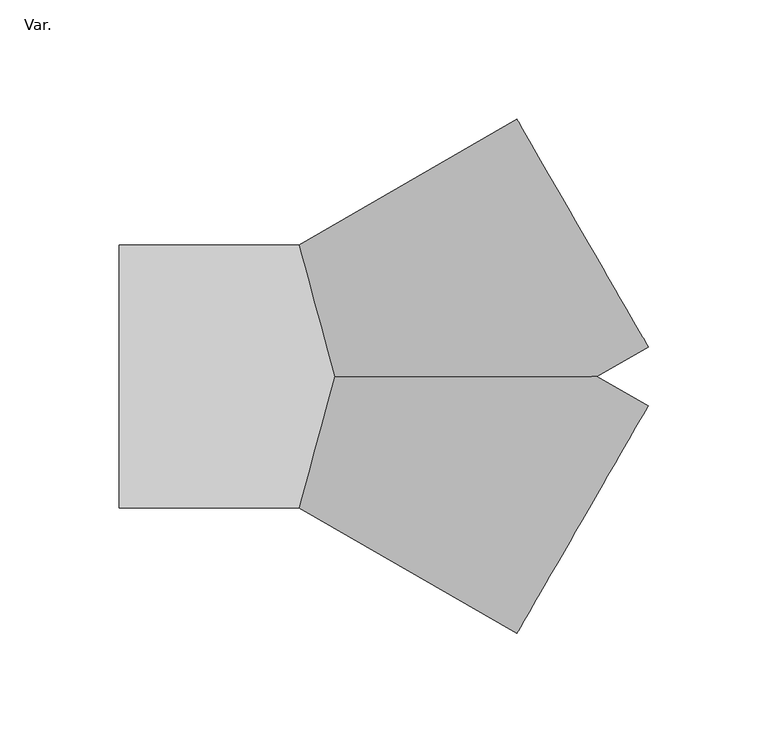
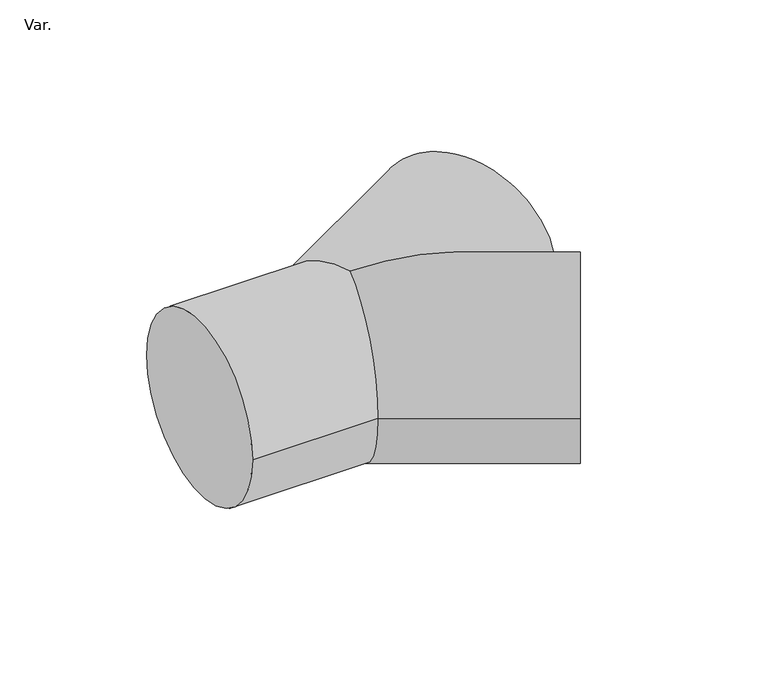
"""IFC4 building model written with IfcOpenShell, lengths in millimetres: pipe fitting geometry, PIF_HDPE y branch_Akatherm : Var.."""

import ifcopenshell
import ifcopenshell.guid

model = None  # the IFC model being written
_history = None  # IfcOwnerHistory: only IFC2X3 demands one
_inside = {}  # id of a spatial element -> (the spatial element, [elements in it])
_under = {}  # id of a project, library or spatial element -> (it, [spatial elements below it])
_declared = {}  # id of a project -> (the project, [libraries it declares])
_typed = {}  # id of a type object -> (the type object, [elements of that type])
_made_of = {}  # id of a material, layer set ... -> (it, [elements and type objects made of it])


def new_model(schema):
    """Start an empty IFC model of exactly this schema.

    Asked for "IFC4X3", IfcOpenShell would pick the latest addendum, in which some entities
    have other attributes; the version numbers below select the first issue.
    IFC2X3 requires an IfcOwnerHistory on every rooted entity: one is made here for all.
    """
    global model, _history
    if schema == "IFC4X3":
        model = ifcopenshell.file(schema_version=(4, 3, 0, 0))
    else:
        model = ifcopenshell.file(schema=schema)
    _inside.clear()
    _under.clear()
    _declared.clear()
    _typed.clear()
    _made_of.clear()
    _history = None
    if model.schema == "IFC2X3":
        org = make("IfcOrganization", Name="unknown")
        user = make(
            "IfcPersonAndOrganization",
            ThePerson=make("IfcPerson", FamilyName="unknown"),
            TheOrganization=org,
        )
        app = make(
            "IfcApplication",
            ApplicationDeveloper=org,
            Version="unknown",
            ApplicationFullName="unknown",
            ApplicationIdentifier="unknown",
        )
        _history = make(
            "IfcOwnerHistory",
            OwningUser=user,
            OwningApplication=app,
            ChangeAction="ADDED",
            CreationDate=0,
        )
    return model


def make(cls, **values):
    """One entity of the class cls with the attributes given. An attribute that is None is left unset."""
    return model.create_entity(
        cls, **{name: value for name, value in values.items() if value is not None}
    )


def rooted(cls, **values):
    """An entity with a GlobalId (a new one), such as an element, a storey or a relation."""
    return make(cls, GlobalId=ifcopenshell.guid.new(), OwnerHistory=_history, **values)


def si_unit(unit_type, name, prefix=None):
    """IfcSIUnit, for example si_unit("LENGTHUNIT", "METRE", prefix="MILLI")."""
    return make("IfcSIUnit", UnitType=unit_type, Prefix=prefix, Name=name)


def assignment(units):
    """IfcUnitAssignment: the units of a project."""
    return None if units is None else make("IfcUnitAssignment", Units=units)


def point(xyz):
    """IfcCartesianPoint."""
    return None if xyz is None else make("IfcCartesianPoint", Coordinates=xyz)


def direction(xyz):
    """IfcDirection."""
    return None if xyz is None else make("IfcDirection", DirectionRatios=xyz)


def frame(location, z_axis=None, x_axis=None):
    """IfcAxis2Placement3D, a coordinate frame: its origin and axes. An axis left out is left unset."""
    return make(
        "IfcAxis2Placement3D",
        Location=point(location),
        Axis=direction(z_axis),
        RefDirection=direction(x_axis),
    )


def origin():
    """The frame at (0, 0, 0) with its axes left unset."""
    return frame((0.0, 0.0, 0.0))


def place(relative_to, where):
    """IfcLocalPlacement: puts the frame where relative to a parent placement (None: the world)."""
    return make(
        "IfcLocalPlacement", PlacementRelTo=relative_to, RelativePlacement=where
    )


def context(
    kind, dimensions, precision=None, world=None, true_north=None, identifier=None
):
    """IfcGeometricRepresentationContext, for example the 3D "Model" context."""
    return make(
        "IfcGeometricRepresentationContext",
        ContextIdentifier=identifier,
        ContextType=kind,
        CoordinateSpaceDimension=dimensions,
        Precision=precision,
        WorldCoordinateSystem=world,
        TrueNorth=true_north,
    )


def project(units=None, contexts=None):
    """IfcProject with its units and contexts."""
    return rooted(
        "IfcProject",
        Name="project",
        RepresentationContexts=contexts,
        UnitsInContext=assignment(units),
    )


def spatial(cls, under=None, at=None, **own):
    """A site, building, storey or space (cls), placed at a placement, below another one or the project."""
    s = rooted(cls, ObjectPlacement=at, **own)
    if under is not None:
        _under.setdefault(under.id(), (under, []))[1].append(s)
    return s


def circle_curve(where, radius):
    """IfcCircle in the frame where."""
    return make("IfcCircle", Position=where, Radius=radius)


def ellipse_curve(where, semi_axis1, semi_axis2):
    """IfcEllipse in the frame where."""
    return make(
        "IfcEllipse", Position=where, SemiAxis1=semi_axis1, SemiAxis2=semi_axis2
    )


def shape(context_of_items, identifier, shape_type, items):
    """IfcShapeRepresentation: the items that make up one representation, for example the "Body"."""
    return make(
        "IfcShapeRepresentation",
        ContextOfItems=context_of_items,
        RepresentationIdentifier=identifier,
        RepresentationType=shape_type,
        Items=items,
    )


def source(mapping_origin, context_of_items, identifier, shape_type, items):
    """IfcRepresentationMap: a shape defined once, which mapped items show again and again."""
    return make(
        "IfcRepresentationMap",
        MappingOrigin=mapping_origin,
        MappedRepresentation=shape(context_of_items, identifier, shape_type, items),
    )


def transform(
    local_origin,
    x_axis=None,
    y_axis=None,
    z_axis=None,
    scale=None,
    scale2=None,
    scale3=None,
    uniform=True,
):
    """IfcCartesianTransformationOperator3D, or its non-uniform kind. x_axis, y_axis, z_axis: its Axis1, 2, 3."""
    if uniform:
        return make(
            "IfcCartesianTransformationOperator3D",
            Axis1=direction(x_axis),
            Axis2=direction(y_axis),
            LocalOrigin=point(local_origin),
            Scale=scale,
            Axis3=direction(z_axis),
        )
    return make(
        "IfcCartesianTransformationOperator3DnonUniform",
        Axis1=direction(x_axis),
        Axis2=direction(y_axis),
        LocalOrigin=point(local_origin),
        Scale=scale,
        Axis3=direction(z_axis),
        Scale2=scale2,
        Scale3=scale3,
    )


def mapped(mapping_source, mapping_target):
    """IfcMappedItem: shows the shape of a source again, moved by a transform."""
    return make(
        "IfcMappedItem", MappingSource=mapping_source, MappingTarget=mapping_target
    )


def made_of(thing, what):
    """Note that an element or type object is made of a material, layer set ...; save() writes the relation."""
    if what is not None:
        _made_of.setdefault(what.id(), (what, []))[1].append(thing)
    return thing


def element(
    cls,
    number,
    at=None,
    inside=None,
    cuts=None,
    type_object=None,
    material=None,
    context=None,
    identifier="Body",
    shape_type=None,
    held_by="IfcProductDefinitionShape",
    body=None,
    shapes=None,
    **own,
):
    """One element of the class cls, such as IfcWall. Its Tag is "e" and its number.

    at: its placement. inside: the storey or other place that contains it. cuts: it is an
    opening in that element (IfcRelVoidsElement). A single representation is given by context,
    identifier, shape_type and body (its items); several are given by shapes. held_by: the class
    of the entity that holds the representations. save() writes the other relations.
    """
    e = rooted(cls, Tag="e%d" % number, ObjectPlacement=at, **own)
    if body is not None:
        shapes = [shape(context, identifier, shape_type, body)]
    if shapes is not None:
        e.Representation = make(held_by, Representations=shapes)
    if inside is not None:
        _inside.setdefault(inside.id(), (inside, []))[1].append(e)
    if cuts is not None:
        rooted(
            "IfcRelVoidsElement", RelatingBuildingElement=cuts, RelatedOpeningElement=e
        )
    if type_object is not None:
        _typed.setdefault(type_object.id(), (type_object, []))[1].append(e)
    return made_of(e, material)


def aggregate(whole, parts):
    """IfcRelAggregates: a whole, such as a stair, and the parts it consists of."""
    return rooted("IfcRelAggregates", RelatingObject=whole, RelatedObjects=parts)


def save(model, path):
    """Write the relations noted so far, then the file.

    IfcRelAggregates (storeys below a building ...), IfcRelContainedInSpatialStructure (elements
    in a storey), IfcRelDefinesByType, IfcRelAssociatesMaterial and IfcRelDeclares: one each for
    every whole, place, type object, material and project.
    """
    for whole, parts in _under.values():
        aggregate(whole, parts)
    for where, things in _inside.values():
        rooted(
            "IfcRelContainedInSpatialStructure",
            RelatedElements=things,
            RelatingStructure=where,
        )
    for kind, things in _typed.values():
        rooted("IfcRelDefinesByType", RelatedObjects=things, RelatingType=kind)
    for what, things in _made_of.values():
        rooted("IfcRelAssociatesMaterial", RelatedObjects=things, RelatingMaterial=what)
    for by, libraries in _declared.values():
        rooted("IfcRelDeclares", RelatingContext=by, RelatedDefinitions=libraries)
    model.write(path)


def plane_surface(at):
    """IfcPlane: the flat surface through the origin of the frame at, square to its z axis."""
    return make("IfcPlane", Position=at)


def cylinder_surface(at, radius):
    """IfcCylindricalSurface: all points at the distance radius from the z axis of the frame at."""
    return make("IfcCylindricalSurface", Position=at, Radius=radius)


def advanced_brep(points, edges, surfaces, faces):
    """IfcAdvancedBrep: a solid bounded by faces that lie on surfaces and meet in shared edges.

    An edge is (start, end): straight between two places in points (the first is 0);
    or (start, end, curve); or (start, end, curve, False) where it runs against its curve.
    A face is (place in surfaces, loops), or (place, loops, False) where it looks against
    its surface's normal. A loop lists edges by number (the first is 1), with a minus sign
    where the edge is run from its end to its start. The first loop is the outer one.
    """
    corners = [point(p) for p in points]
    vertices = [make("IfcVertexPoint", VertexGeometry=c) for c in corners]
    made = []
    for start, end, *more in edges:
        made.append(
            make(
                "IfcEdgeCurve",
                EdgeStart=vertices[start],
                EdgeEnd=vertices[end],
                EdgeGeometry=more[0] if more else make("IfcPolyline", Points=[corners[start], corners[end]]),
                SameSense=more[1] if len(more) > 1 else True,
            )
        )
    hull = []
    for where, loops, *sense in faces:
        bounds = []
        for j, loop in enumerate(loops):
            ring = [make("IfcOrientedEdge", EdgeElement=made[abs(k) - 1], Orientation=k > 0) for k in loop]
            bounds.append(
                make(
                    "IfcFaceOuterBound" if j == 0 else "IfcFaceBound",
                    Bound=make("IfcEdgeLoop", EdgeList=ring),
                    Orientation=True,
                )
            )
        hull.append(make("IfcAdvancedFace", Bounds=bounds, FaceSurface=surfaces[where], SameSense=sense[0] if sense else True))
    return make("IfcAdvancedBrep", Outer=make("IfcClosedShell", CfsFaces=hull))


def var_dcd50663(model_context):
    return source(origin(), model_context, "Body", "AdvancedBrep", [
        advanced_brep(
        [(-90.0, -55.0, 0.0), (-90.0, 55.0, 0.0), (-14.7372056, 55.0, 0.0), (0.0, 0.0, -55.0), (-14.7372056, -55.0, 0.0), (0.0, 0.0, 55.0), (131.4230485, 12.3686028, 0.0), (76.4230485, 107.6313972, 0.0), (110.0, 0.0, 0.0), (76.4230485, -107.6313972, 0.0), (131.4230485, -12.3686028, 0.0)],
        [
            (0, 1, circle_curve(frame((-90.0, 0.0, 0.0), z_axis=(-1.0, 0.0, 0.0), x_axis=(0.0, 0.0, 1.0)), 55.0)),
            (1, 0, circle_curve(frame((-90.0, 0.0, 0.0), z_axis=(-1.0, 0.0, 0.0), x_axis=(0.0, 0.0, -1.0)), 55.0)),
            (1, 2),
            (2, 3, ellipse_curve(frame((0.0, 0.0, 0.0), z_axis=(-0.9659258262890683, -0.25881904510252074, 0.0), x_axis=(0.2588190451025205, -0.9659258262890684, 0.0)), 56.9401899, 55.0)),
            (3, 4, ellipse_curve(frame((0.0, 0.0, 0.0), z_axis=(-0.9659258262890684, 0.2588190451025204, 0.0), x_axis=(0.25881904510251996, 0.9659258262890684, 0.0)), 56.9401899, 55.0)),
            (4, 0),
            (4, 5, ellipse_curve(frame((0.0, 0.0, 0.0), z_axis=(-0.9659258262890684, 0.2588190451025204, 0.0), x_axis=(0.25881904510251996, 0.9659258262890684, 0.0)), 56.9401899, 55.0)),
            (5, 2, ellipse_curve(frame((0.0, 0.0, 0.0), z_axis=(-0.9659258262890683, -0.25881904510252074, 0.0), x_axis=(0.2588190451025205, -0.9659258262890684, 0.0)), 56.9401899, 55.0)),
            (6, 7, circle_curve(frame((103.9230485, 60.0, 0.0), z_axis=(0.8660254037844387, 0.5, 0.0), x_axis=(-0.5, 0.8660254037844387, 0.0)), 55.0)),
            (7, 6, circle_curve(frame((103.9230485, 60.0, 0.0), z_axis=(0.8660254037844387, 0.5, 0.0), x_axis=(-0.5, 0.8660254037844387, 0.0)), 55.0)),
            (7, 2),
            (5, 8, ellipse_curve(frame((0.0, 0.0, 0.0), z_axis=(0.0, 1.0, 0.0), x_axis=(-1.0, 0.0, 0.0)), 110.0, 55.0)),
            (8, 6),
            (8, 3, ellipse_curve(frame((0.0, 0.0, 0.0), z_axis=(0.0, 1.0, 0.0), x_axis=(-1.0, 0.0, 0.0)), 110.0, 55.0)),
            (9, 10, circle_curve(frame((103.9230485, -60.0, 0.0), z_axis=(0.866025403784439, -0.4999999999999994, 0.0), x_axis=(0.4999999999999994, 0.866025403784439, 0.0)), 55.0)),
            (10, 9, circle_curve(frame((103.9230485, -60.0, 0.0), z_axis=(0.866025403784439, -0.4999999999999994, 0.0), x_axis=(0.4999999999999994, 0.866025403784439, 0.0)), 55.0)),
            (10, 8),
            (4, 9),
        ],
        [
            plane_surface(frame((-90.0, 0.0, 0.0), z_axis=(-1.0, 0.0, 0.0), x_axis=(0.0, 0.0, -1.0))),
            cylinder_surface(frame((-90.0, 0.0, 0.0), z_axis=(1.0, 0.0, 0.0), x_axis=(0.0, 0.0, -1.0)), 55.0),
            cylinder_surface(frame((-90.0, 0.0, 0.0), z_axis=(1.0, 0.0, 0.0), x_axis=(0.0, 0.0, 1.0)), 55.0),
            plane_surface(frame((103.9230485, 60.0, 0.0), z_axis=(0.8660254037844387, 0.5, 0.0), x_axis=(0.0, 0.0, 1.0))),
            cylinder_surface(frame((0.0, 0.0, 0.0), z_axis=(-0.8660254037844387, -0.5, 0.0), x_axis=(-0.5, 0.8660254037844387, 0.0)), 55.0),
            plane_surface(frame((103.9230485, -60.0, 0.0), z_axis=(0.866025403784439, -0.4999999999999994, 0.0), x_axis=(0.0, 0.0, 1.0))),
            cylinder_surface(frame((0.0, 0.0, 0.0), z_axis=(-0.866025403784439, 0.4999999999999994, 0.0), x_axis=(0.4999999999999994, 0.866025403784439, 0.0)), 55.0),
        ],
        [
            (0, [[1, 2]]),
            (1, [[-2, 3, 4, 5, 6]]),
            (2, [[-1, -6, 7, 8, -3]]),
            (3, [[9, 10]]),
            (4, [[-10, 11, -8, 12, 13]]),
            (4, [[-9, -13, 14, -4, -11]]),
            (5, [[15, 16]]),
            (6, [[-16, 17, -12, -7, 18]]),
            (6, [[-15, -18, -5, -14, -17]]),
        ],
    ),
    ])


if __name__ == "__main__":
    model = new_model("IFC4")
    model_context = context("Model", 3, world=origin())
    ifc_project = project(units=[si_unit("LENGTHUNIT", "METRE", prefix="MILLI")], contexts=[model_context])
    site = spatial("IfcSite", under=ifc_project)
    building = spatial("IfcBuilding", under=site)
    placement = place(None, origin())
    var_shape = var_dcd50663(model_context)
    element("IfcPipeFitting", 1, ObjectType="PIF_HDPE y branch_Akatherm : Var.", at=placement, inside=building, context=model_context, shape_type="MappedRepresentation", body=[
        mapped(var_shape, transform((0.0, 0.0, 0.0), x_axis=(1.0, 0.0, 0.0), y_axis=(0.0, 1.0, 0.0), z_axis=(0.0, 0.0, 1.0))),
    ])
    save(model, "model.ifc")
